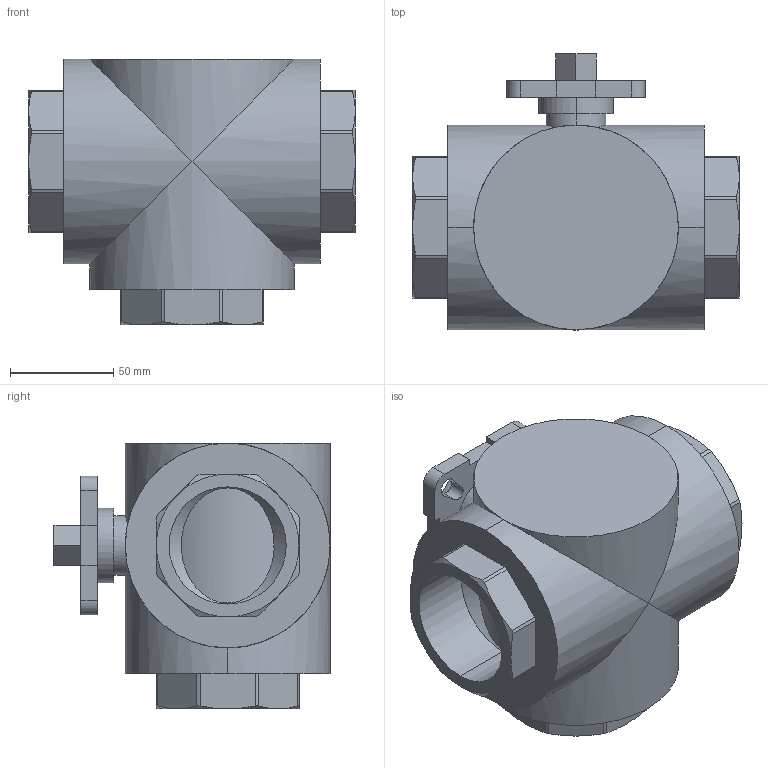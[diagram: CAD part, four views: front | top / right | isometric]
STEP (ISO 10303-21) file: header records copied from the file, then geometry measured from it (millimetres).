
FILE_DESCRIPTION (( 'STEP AP203' ), '1' );
FILE_NAME ('04.622I0500FVPB0.STEP', '2018-10-05T14:10:17', ( '' ), ( '' ), 'SwSTEP 2.0', 'SolidWorks 2014', '' );
FILE_SCHEMA (( 'CONFIG_CONTROL_DESIGN' ));
Length unit declared in the file: millimetre
Products named in the file (1): 04.622I0500FVPB0
Bounding box: 158 x 133.5 x 128.5 mm (x, y, z)
Volume: 1177202 mm3; surface area: 104434.2 mm2
Topology: 1 solids, 1 shells, 159 faces, 405 edges, 257 vertices
Faces by surface type: plane 67, cylinder 62, cone 30
Entity records: 5496 total; most frequent: CARTESIAN_POINT 1592, ORIENTED_EDGE 810, DIRECTION 787, EDGE_CURVE 405, AXIS2_PLACEMENT_3D 290, VERTEX_POINT 257, VECTOR 207, LINE 207
